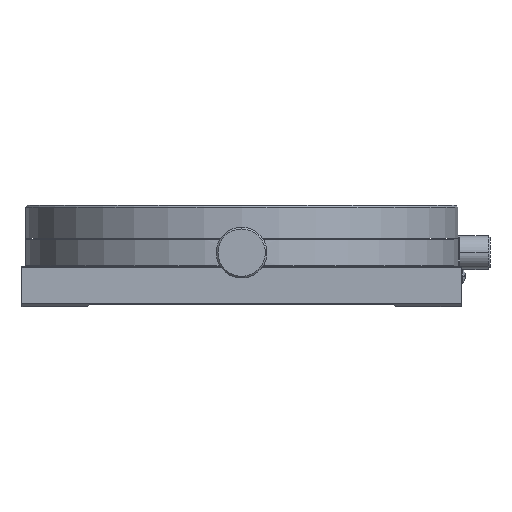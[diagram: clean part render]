
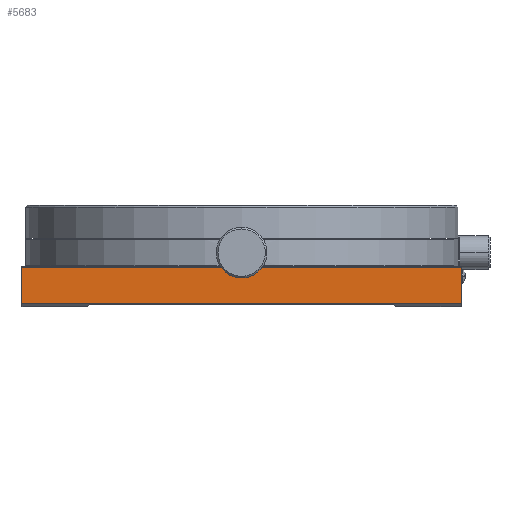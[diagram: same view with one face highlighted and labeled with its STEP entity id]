
A CAD part, left-side view. The second image highlights one B-rep face of the part: STEP entity #5683.
In plain terms, the highlighted planar face has unit normal (-1, 0, 0).
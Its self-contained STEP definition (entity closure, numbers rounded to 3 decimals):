
#5489 = EDGE_CURVE ( 'NONE', #5490, #5515, #20998, .T. ) ;
#5490 = VERTEX_POINT ( 'NONE', #20994 ) ;
#5515 = VERTEX_POINT ( 'NONE', #21075 ) ;
#5547 = EDGE_CURVE ( 'NONE', #5678, #11266, #21083, .T. ) ;
#5661 = ORIENTED_EDGE ( 'NONE', *, *, #5682, .F. ) ;
#5662 = ORIENTED_EDGE ( 'NONE', *, *, #5489, .T. ) ;
#5663 = ORIENTED_EDGE ( 'NONE', *, *, #5664, .T. ) ;
#5664 = EDGE_CURVE ( 'NONE', #5515, #11266, #21295, .T. ) ;
#5678 = VERTEX_POINT ( 'NONE', #21331 ) ;
#5682 = EDGE_CURVE ( 'NONE', #5490, #5678, #21330, .T. ) ;
#5683 = ADVANCED_FACE ( 'NONE', ( #21326 ), #21325, .T. ) ;
#5684 = EDGE_LOOP ( 'NONE', ( #5685, #5661, #5662, #5663 ) ) ;
#5685 = ORIENTED_EDGE ( 'NONE', *, *, #5547, .F. ) ;
#11266 = VERTEX_POINT ( 'NONE', #31064 ) ;
#20994 = CARTESIAN_POINT ( 'NONE',  ( -65., 65., 11.5 ) ) ;
#20995 = DIRECTION ( 'NONE',  ( 0., 0., -1. ) ) ;
#20996 = VECTOR ( 'NONE', #20995, 1000. ) ;
#20997 = CARTESIAN_POINT ( 'NONE',  ( -65., 65., 11.5 ) ) ;
#20998 = LINE ( 'NONE', #20997, #20996 ) ;
#21075 = CARTESIAN_POINT ( 'NONE',  ( -65., 65., 0.8 ) ) ;
#21080 = DIRECTION ( 'NONE',  ( 0., 0., -1. ) ) ;
#21081 = VECTOR ( 'NONE', #21080, 1000. ) ;
#21082 = CARTESIAN_POINT ( 'NONE',  ( -65., -65., 11.5 ) ) ;
#21083 = LINE ( 'NONE', #21082, #21081 ) ;
#21292 = DIRECTION ( 'NONE',  ( 0., -1., 0. ) ) ;
#21293 = VECTOR ( 'NONE', #21292, 1000. ) ;
#21294 = CARTESIAN_POINT ( 'NONE',  ( -65., 65., 0.8 ) ) ;
#21295 = LINE ( 'NONE', #21294, #21293 ) ;
#21321 = DIRECTION ( 'NONE',  ( 0., -1., 0. ) ) ;
#21322 = DIRECTION ( 'NONE',  ( -1., 0., 0. ) ) ;
#21323 = CARTESIAN_POINT ( 'NONE',  ( -65., 65., 11.5 ) ) ;
#21324 = AXIS2_PLACEMENT_3D ( 'NONE', #21323, #21322, #21321 ) ;
#21325 = PLANE ( 'NONE',  #21324 ) ;
#21326 = FACE_OUTER_BOUND ( 'NONE', #5684, .T. ) ;
#21327 = DIRECTION ( 'NONE',  ( 0., -1., 0. ) ) ;
#21328 = VECTOR ( 'NONE', #21327, 1000. ) ;
#21329 = CARTESIAN_POINT ( 'NONE',  ( -65., 65., 11.5 ) ) ;
#21330 = LINE ( 'NONE', #21329, #21328 ) ;
#21331 = CARTESIAN_POINT ( 'NONE',  ( -65., -65., 11.5 ) ) ;
#31064 = CARTESIAN_POINT ( 'NONE',  ( -65., -65., 0.8 ) ) ;
